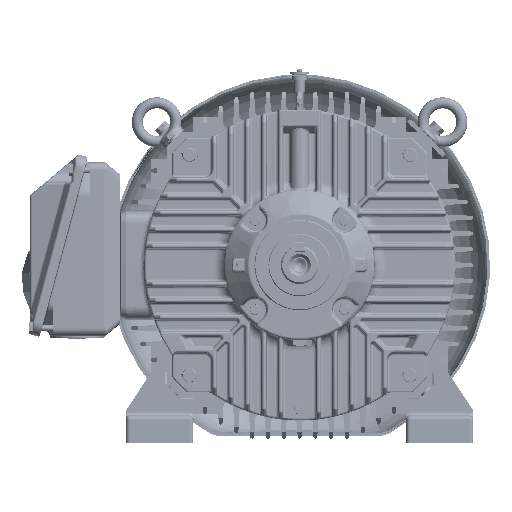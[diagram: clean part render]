
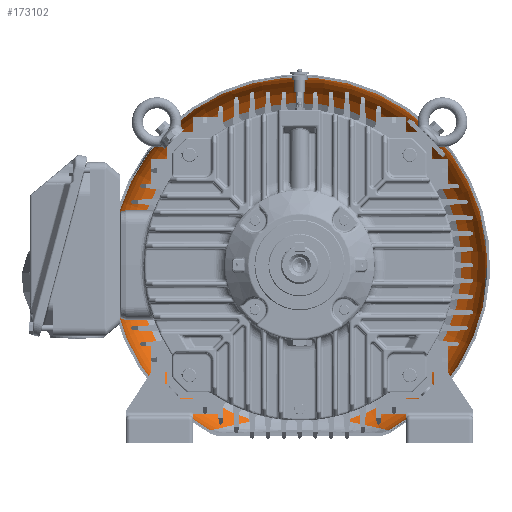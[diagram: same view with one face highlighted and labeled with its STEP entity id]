
A CAD part, front view. The second image highlights one B-rep face of the part: STEP entity #173102.
In plain terms, the highlighted toroidal (fillet/blend) face has major radius 173 mm and minor radius 65 mm.
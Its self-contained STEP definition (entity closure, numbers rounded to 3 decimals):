
#499=TOROIDAL_SURFACE('',#185657,173.,65.);
#4990=B_SPLINE_CURVE_WITH_KNOTS('',3,(#309274,#309275,#309276,#309277,#309278,
#309279,#309280,#309281,#309282,#309283,#309284,#309285,#309286,#309287,
#309288,#309289,#309290,#309291,#309292,#309293,#309294,#309295,#309296,
#309297,#309298,#309299,#309300,#309301),.UNSPECIFIED.,.F.,.F.,(4,1,1,1,
1,1,1,1,1,1,1,1,1,1,1,1,1,1,1,1,1,1,1,1,1,4),(0.,0.063,0.125,0.188,0.219,
0.234,0.25,0.266,0.281,0.313,0.375,0.438,0.469,0.484,0.5,
0.516,0.531,0.563,0.625,0.688,0.719,0.75,0.781,0.813,0.875,
1.),.UNSPECIFIED.);
#4995=B_SPLINE_CURVE_WITH_KNOTS('',3,(#309524,#309525,#309526,#309527,#309528,
#309529,#309530,#309531,#309532,#309533,#309534,#309535,#309536,#309537,
#309538,#309539,#309540,#309541,#309542,#309543,#309544,#309545,#309546,
#309547,#309548,#309549,#309550,#309551),.UNSPECIFIED.,.F.,.F.,(4,1,1,1,
1,1,1,1,1,1,1,1,1,1,1,1,1,1,1,1,1,1,1,1,1,4),(0.,0.125,0.188,0.219,0.25,
0.281,0.313,0.375,0.438,0.469,0.484,0.5,0.516,0.531,0.563,
0.625,0.688,0.719,0.734,0.75,0.766,0.781,0.813,0.875,0.938,
1.),.UNSPECIFIED.);
#75548=ORIENTED_EDGE('',*,*,#110028,.T.);
#75549=ORIENTED_EDGE('',*,*,#110022,.T.);
#75550=ORIENTED_EDGE('',*,*,#108274,.F.);
#75551=ORIENTED_EDGE('',*,*,#110027,.T.);
#108274=EDGE_CURVE('',#128121,#128122,#136372,.T.);
#110022=EDGE_CURVE('',#129163,#128122,#4990,.T.);
#110027=EDGE_CURVE('',#128121,#129168,#4995,.T.);
#110028=EDGE_CURVE('',#129168,#129163,#136909,.T.);
#128121=VERTEX_POINT('',#289892);
#128122=VERTEX_POINT('',#289893);
#129163=VERTEX_POINT('',#309213);
#129168=VERTEX_POINT('',#309523);
#136372=CIRCLE('',#184644,205.5);
#136909=CIRCLE('',#185658,238.);
#148168=EDGE_LOOP('',(#75548,#75549,#75550,#75551));
#160544=FACE_BOUND('',#148168,.T.);
#173102=ADVANCED_FACE('',(#160544),#499,.F.);
#184644=AXIS2_PLACEMENT_3D('',#289891,#219440,#219441);
#185657=AXIS2_PLACEMENT_3D('',#309552,#221987,#221988);
#185658=AXIS2_PLACEMENT_3D('',#309553,#221989,#221990);
#219440=DIRECTION('',(0.,-1.,0.));
#219441=DIRECTION('',(-1.,0.,0.));
#221987=DIRECTION('',(0.,-1.,0.));
#221988=DIRECTION('',(-1.,0.,0.));
#221989=DIRECTION('',(0.,-1.,0.));
#221990=DIRECTION('',(-1.,0.,0.));
#289891=CARTESIAN_POINT('',(0.,643.195,0.));
#289892=CARTESIAN_POINT('',(57.094,643.195,-197.409));
#289893=CARTESIAN_POINT('',(-57.094,643.195,-197.409));
#309213=CARTESIAN_POINT('',(-113.128,586.903,-209.394));
#309274=CARTESIAN_POINT('',(-113.128,586.903,-209.394));
#309275=CARTESIAN_POINT('',(-113.128,588.696,-209.394));
#309276=CARTESIAN_POINT('',(-112.911,592.268,-209.343));
#309277=CARTESIAN_POINT('',(-111.939,597.554,-209.12));
#309278=CARTESIAN_POINT('',(-110.602,601.863,-208.817));
#309279=CARTESIAN_POINT('',(-109.392,604.825,-208.541));
#309280=CARTESIAN_POINT('',(-108.63,606.487,-208.368));
#309281=CARTESIAN_POINT('',(-108.004,607.756,-208.225));
#309282=CARTESIAN_POINT('',(-107.408,608.887,-208.089));
#309283=CARTESIAN_POINT('',(-106.55,610.419,-207.893));
#309284=CARTESIAN_POINT('',(-104.952,613.031,-207.528));
#309285=CARTESIAN_POINT('',(-102.367,616.627,-206.94));
#309286=CARTESIAN_POINT('',(-99.412,620.008,-206.273));
#309287=CARTESIAN_POINT('',(-97.151,622.268,-205.765));
#309288=CARTESIAN_POINT('',(-95.819,623.517,-205.467));
#309289=CARTESIAN_POINT('',(-94.765,624.464,-205.23));
#309290=CARTESIAN_POINT('',(-93.801,625.295,-205.015));
#309291=CARTESIAN_POINT('',(-92.454,626.413,-204.714));
#309292=CARTESIAN_POINT('',(-90.053,628.293,-204.179));
#309293=CARTESIAN_POINT('',(-86.444,630.813,-203.382));
#309294=CARTESIAN_POINT('',(-82.623,633.107,-202.552));
#309295=CARTESIAN_POINT('',(-79.466,634.805,-201.876));
#309296=CARTESIAN_POINT('',(-77.002,636.033,-201.353));
#309297=CARTESIAN_POINT('',(-74.64,637.127,-200.857));
#309298=CARTESIAN_POINT('',(-71.402,638.523,-200.185));
#309299=CARTESIAN_POINT('',(-65.654,640.736,-199.018));
#309300=CARTESIAN_POINT('',(-60.556,642.289,-198.041));
#309301=CARTESIAN_POINT('',(-57.094,643.195,-197.409));
#309523=CARTESIAN_POINT('',(113.128,586.903,-209.394));
#309524=CARTESIAN_POINT('',(57.094,643.195,-197.409));
#309525=CARTESIAN_POINT('',(60.562,642.287,-198.042));
#309526=CARTESIAN_POINT('',(65.67,640.73,-199.022));
#309527=CARTESIAN_POINT('',(71.433,638.51,-200.191));
#309528=CARTESIAN_POINT('',(74.676,637.111,-200.864));
#309529=CARTESIAN_POINT('',(77.05,636.01,-201.363));
#309530=CARTESIAN_POINT('',(79.494,634.79,-201.882));
#309531=CARTESIAN_POINT('',(82.637,633.099,-202.555));
#309532=CARTESIAN_POINT('',(86.436,630.817,-203.38));
#309533=CARTESIAN_POINT('',(90.027,628.312,-204.173));
#309534=CARTESIAN_POINT('',(92.416,626.444,-204.705));
#309535=CARTESIAN_POINT('',(93.757,625.332,-205.005));
#309536=CARTESIAN_POINT('',(94.713,624.51,-205.219));
#309537=CARTESIAN_POINT('',(95.775,623.558,-205.457));
#309538=CARTESIAN_POINT('',(97.112,622.306,-205.757));
#309539=CARTESIAN_POINT('',(99.382,620.041,-206.266));
#309540=CARTESIAN_POINT('',(102.346,616.654,-206.935));
#309541=CARTESIAN_POINT('',(104.937,613.055,-207.524));
#309542=CARTESIAN_POINT('',(106.537,610.442,-207.889));
#309543=CARTESIAN_POINT('',(107.396,608.909,-208.086));
#309544=CARTESIAN_POINT('',(107.992,607.779,-208.222));
#309545=CARTESIAN_POINT('',(108.62,606.506,-208.366));
#309546=CARTESIAN_POINT('',(109.384,604.842,-208.54));
#309547=CARTESIAN_POINT('',(110.597,601.874,-208.816));
#309548=CARTESIAN_POINT('',(111.936,597.559,-209.121));
#309549=CARTESIAN_POINT('',(112.911,592.269,-209.343));
#309550=CARTESIAN_POINT('',(113.128,588.696,-209.394));
#309551=CARTESIAN_POINT('',(113.128,586.903,-209.394));
#309552=CARTESIAN_POINT('',(0.,586.903,0.));
#309553=CARTESIAN_POINT('',(0.,586.903,0.));
